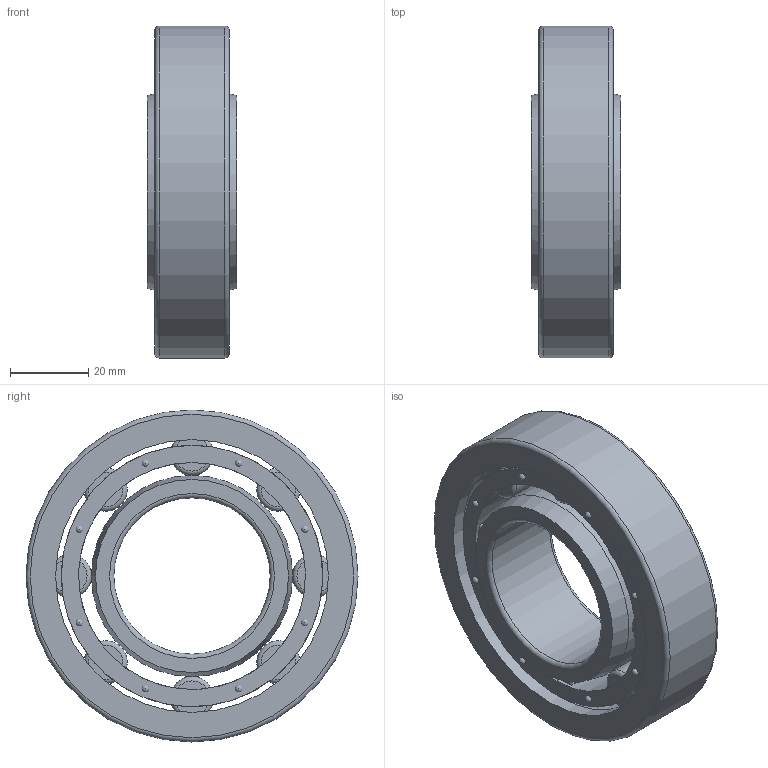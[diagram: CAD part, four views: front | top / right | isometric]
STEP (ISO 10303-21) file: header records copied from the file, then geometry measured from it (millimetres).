
FILE_DESCRIPTION(/* description */ (''),/* implementation_level */ '2;1');
FILE_NAME(/* name */ 'G:\NUB--\NUB--\NUB209M.stp',/* time_stamp */ '2016-10-10T21:14:51+02:00',/* author */ ('MARTIN'),/* organization */ (''),/* preprocessor_version */ 'ST-DEVELOPER v15.6',/* originating_system */ 'Autodesk Inventor 2015',/* authorisation */ '');
FILE_SCHEMA (('AUTOMOTIVE_DESIGN { 1 0 10303 214 3 1 1 }'));
Length unit declared in the file: millimetre
Products named in the file (8): NUB209M-02; NUB209M-01; NUB209M-roller; NUB209M-M,EMcage01; NUB209M-M,EMcage02; NUB209M-M,EMcage03; NUB209M-M,EMcage; NUB209M
Bounding box: 23 x 85 x 85 mm (x, y, z)
Volume: 65130.2 mm3; surface area: 35088.6 mm2
Topology: 20 solids, 20 shells, 153 faces, 330 edges, 218 vertices
Faces by surface type: cylinder 58, plane 57, torus 20, sphere 16, cone 2
Full cylindrical faces by diameter (mm): 1.1 x24, 11 x8, 40 x1, 51.5 x1, 58.1 x2, 66.9 x2, 69.833 x2, 73.5 x1, 85 x1
Entity records: 2635 total; most frequent: DIRECTION 512, CARTESIAN_POINT 400, ORIENTED_EDGE 320, AXIS2_PLACEMENT_3D 240, EDGE_LOOP 162, EDGE_CURVE 160, CIRCLE 128, VERTEX_POINT 128
